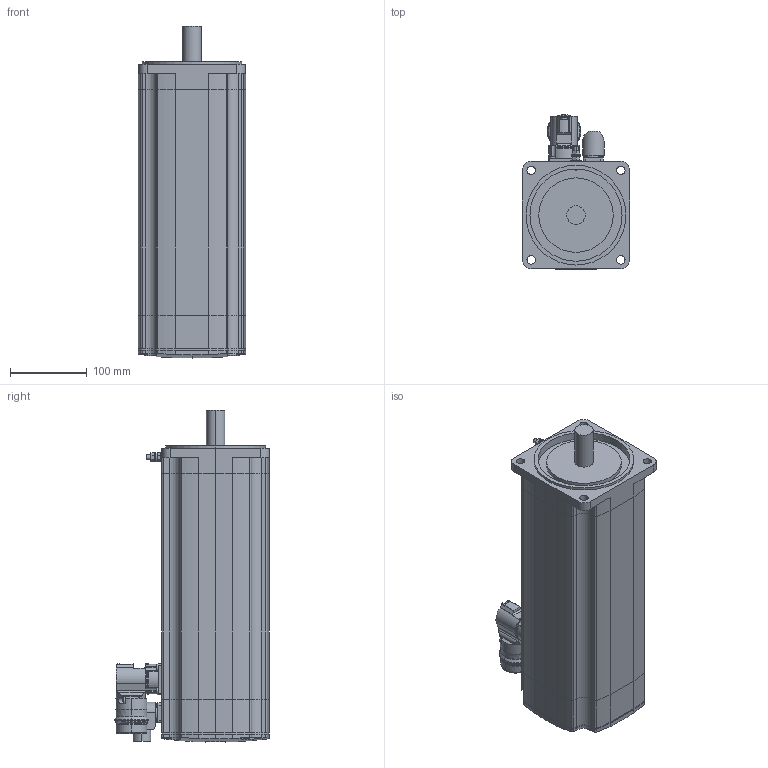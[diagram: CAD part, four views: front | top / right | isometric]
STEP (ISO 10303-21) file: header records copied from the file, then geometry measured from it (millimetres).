
FILE_DESCRIPTION (( 'STEP AP214' ), '1' );
FILE_NAME ('SH31404x0xA2100.STEP', '2013-11-29T10:33:01', ( 'Windows User' ), ( 'Schneider-Electric' ), 'SwSTEP 2.0', 'SolidWorks 2010', '' );
FILE_SCHEMA (( 'AUTOMOTIVE_DESIGN' ));
Length unit declared in the file: millimetre
Products named in the file (9): 1-100005039_DECKEL SH3-140X-X_VM0_Deckel; 1-100010983_K-FLACHDICHTUNG BMH-MH3-140X_000; 1-100009292_LAGERSCHILD SH3-140X-A_VM0_Lagerschild SH3-140x-A; 1-100010761_K-GEHÄUSE SH3-140X_VM0_Gehäuse SH3-1404-A-M23; 1-100010773_K-FLANSCH SH3-140X_VM0_Flansch SH3-140x mit Welle ohne Passfeder; 1-100009587_K-ERDUNGSBOLZEN M6_VM1; K-ENCODER-CONINVERS-ABGEW_ENCODER-CONINVERS-ABGEWINKELT_000_Single- MultiTurn; 1-100010211_POWER M40 ABGEWINKELT VEREINFACHT_000_ohne Bremse; SH31404x0xA2100
Assembly tree (8 placements, depth 2):
  SH31404x0xA2100
    K-ENCODER-CONINVERS-ABGEW_ENCODER-CONINVERS-ABGEWINKELT_000_Single- MultiTurn
    1-100010211_POWER M40 ABGEWINKELT VEREINFACHT_000_ohne Bremse
    1-100010983_K-FLACHDICHTUNG BMH-MH3-140X_000
    1-100005039_DECKEL SH3-140X-X_VM0_Deckel
    1-100009292_LAGERSCHILD SH3-140X-A_VM0_Lagerschild SH3-140x-A
    1-100010761_K-GEHÄUSE SH3-140X_VM0_Gehäuse SH3-1404-A-M23
    1-100010773_K-FLANSCH SH3-140X_VM0_Flansch SH3-140x mit Welle ohne Passfeder
    1-100009587_K-ERDUNGSBOLZEN M6_VM1
Bounding box: 140 x 201.5 x 432.35 mm (x, y, z)
Volume: 6719334 mm3; surface area: 414875.3 mm2
Topology: 8 solids, 8 shells, 750 faces, 1912 edges, 1238 vertices
Faces by surface type: cylinder 341, plane 320, bspline 54, cone 23, torus 8, sphere 4
Entity records: 30414 total; most frequent: CARTESIAN_POINT 7854, DIRECTION 3904, ORIENTED_EDGE 3796, EDGE_CURVE 1898, AXIS2_PLACEMENT_3D 1465, VERTEX_POINT 1238, VECTOR 974, LINE 974
